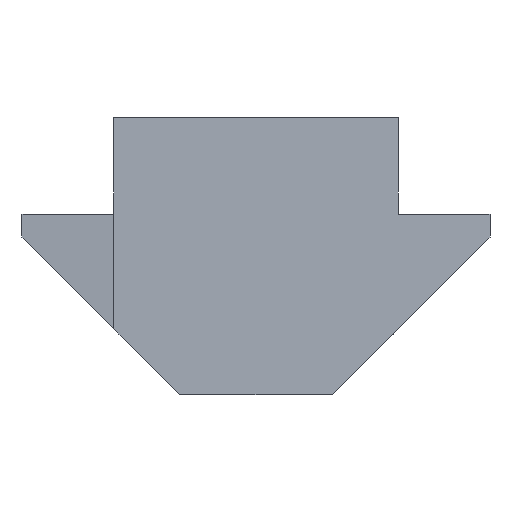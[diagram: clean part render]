
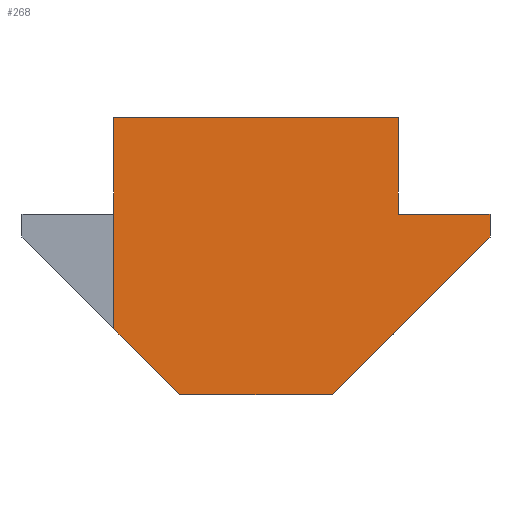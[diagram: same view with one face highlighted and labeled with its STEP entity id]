
A CAD part, front view. The second image highlights one B-rep face of the part: STEP entity #268.
In plain terms, the highlighted planar face has unit normal (0.707, -0.707, 0).
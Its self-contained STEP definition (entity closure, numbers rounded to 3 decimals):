
#2 = ORIENTED_EDGE ( 'NONE', *, *, #107, .T. ) ;
#7 = CARTESIAN_POINT ( 'NONE',  ( -4.25, -9.5, -2.9 ) ) ;
#17 = LINE ( 'NONE', #60, #353 ) ;
#20 = ORIENTED_EDGE ( 'NONE', *, *, #331, .T. ) ;
#27 = EDGE_CURVE ( 'NONE', #170, #37, #310, .T. ) ;
#28 = ORIENTED_EDGE ( 'NONE', *, *, #144, .T. ) ;
#36 = CARTESIAN_POINT ( 'NONE',  ( 7., 1.75, -8.3 ) ) ;
#37 = VERTEX_POINT ( 'NONE', #7 ) ;
#42 = VECTOR ( 'NONE', #301, 1000. ) ;
#48 = CARTESIAN_POINT ( 'NONE',  ( -4.25, -9.5, -8.3 ) ) ;
#55 = DIRECTION ( 'NONE',  ( 0.707, 0.707, 0. ) ) ;
#58 = VERTEX_POINT ( 'NONE', #180 ) ;
#60 = CARTESIAN_POINT ( 'NONE',  ( 4.25, -1., -8.3 ) ) ;
#70 = CARTESIAN_POINT ( 'NONE',  ( -4.25, -9.5, -8.3 ) ) ;
#84 = VECTOR ( 'NONE', #459, 1000. ) ;
#85 = ORIENTED_EDGE ( 'NONE', *, *, #27, .F. ) ;
#107 = EDGE_CURVE ( 'NONE', #170, #378, #324, .T. ) ;
#109 = LINE ( 'NONE', #368, #395 ) ;
#118 = EDGE_CURVE ( 'NONE', #137, #349, #198, .T. ) ;
#126 = EDGE_CURVE ( 'NONE', #418, #378, #374, .T. ) ;
#136 = CARTESIAN_POINT ( 'NONE',  ( 4.25, -1., -2.9 ) ) ;
#137 = VERTEX_POINT ( 'NONE', #447 ) ;
#144 = EDGE_CURVE ( 'NONE', #418, #137, #109, .T. ) ;
#164 = CARTESIAN_POINT ( 'NONE',  ( 7., 1.75, -2.9 ) ) ;
#165 = ORIENTED_EDGE ( 'NONE', *, *, #443, .F. ) ;
#167 = ORIENTED_EDGE ( 'NONE', *, *, #126, .F. ) ;
#170 = VERTEX_POINT ( 'NONE', #537 ) ;
#177 = CARTESIAN_POINT ( 'NONE',  ( 2.282, -2.968, -8.3 ) ) ;
#178 = VERTEX_POINT ( 'NONE', #287 ) ;
#180 = CARTESIAN_POINT ( 'NONE',  ( 4.25, -1., 0. ) ) ;
#189 = DIRECTION ( 'NONE',  ( 0., 0., -1. ) ) ;
#194 = EDGE_CURVE ( 'NONE', #37, #178, #332, .T. ) ;
#198 = LINE ( 'NONE', #201, #84 ) ;
#201 = CARTESIAN_POINT ( 'NONE',  ( 7., 1.75, -8.3 ) ) ;
#211 = AXIS2_PLACEMENT_3D ( 'NONE', #36, #385, #425 ) ;
#212 = CARTESIAN_POINT ( 'NONE',  ( 7., 1.75, 0. ) ) ;
#222 = VECTOR ( 'NONE', #479, 1000. ) ;
#268 = ADVANCED_FACE ( 'NONE', ( #551 ), #509, .F. ) ;
#271 = LINE ( 'NONE', #311, #343 ) ;
#280 = DIRECTION ( 'NONE',  ( 0.577, 0.577, 0.577 ) ) ;
#284 = DIRECTION ( 'NONE',  ( -0.707, -0.707, 0. ) ) ;
#287 = CARTESIAN_POINT ( 'NONE',  ( -4.25, -9.5, 0. ) ) ;
#298 = EDGE_LOOP ( 'NONE', ( #312, #20, #381, #85, #2, #167, #28, #550, #165 ) ) ;
#301 = DIRECTION ( 'NONE',  ( -0.707, -0.707, 0. ) ) ;
#310 = LINE ( 'NONE', #48, #222 ) ;
#311 = CARTESIAN_POINT ( 'NONE',  ( 7., 1.75, -2.9 ) ) ;
#312 = ORIENTED_EDGE ( 'NONE', *, *, #552, .F. ) ;
#321 = CARTESIAN_POINT ( 'NONE',  ( 0.229, -5.021, -10.811 ) ) ;
#324 = LINE ( 'NONE', #321, #350 ) ;
#331 = EDGE_CURVE ( 'NONE', #58, #178, #470, .T. ) ;
#332 = LINE ( 'NONE', #70, #523 ) ;
#336 = CARTESIAN_POINT ( 'NONE',  ( -2.282, -7.532, -8.3 ) ) ;
#343 = VECTOR ( 'NONE', #55, 1000. ) ;
#349 = VERTEX_POINT ( 'NONE', #164 ) ;
#350 = VECTOR ( 'NONE', #534, 1000. ) ;
#353 = VECTOR ( 'NONE', #189, 1000. ) ;
#368 = CARTESIAN_POINT ( 'NONE',  ( 3.271, -1.979, -7.311 ) ) ;
#374 = LINE ( 'NONE', #405, #421 ) ;
#378 = VERTEX_POINT ( 'NONE', #336 ) ;
#381 = ORIENTED_EDGE ( 'NONE', *, *, #194, .F. ) ;
#385 = DIRECTION ( 'NONE',  ( -0.707, 0.707, 0. ) ) ;
#395 = VECTOR ( 'NONE', #280, 1000. ) ;
#405 = CARTESIAN_POINT ( 'NONE',  ( 7., 1.75, -8.3 ) ) ;
#418 = VERTEX_POINT ( 'NONE', #177 ) ;
#421 = VECTOR ( 'NONE', #284, 1000. ) ;
#425 = DIRECTION ( 'NONE',  ( -0.707, -0.707, 0. ) ) ;
#443 = EDGE_CURVE ( 'NONE', #500, #349, #271, .T. ) ;
#447 = CARTESIAN_POINT ( 'NONE',  ( 7., 1.75, -3.582 ) ) ;
#459 = DIRECTION ( 'NONE',  ( 0., 0., 1. ) ) ;
#470 = LINE ( 'NONE', #212, #42 ) ;
#479 = DIRECTION ( 'NONE',  ( 0., 0., 1. ) ) ;
#497 = DIRECTION ( 'NONE',  ( 0., 0., 1. ) ) ;
#500 = VERTEX_POINT ( 'NONE', #136 ) ;
#509 = PLANE ( 'NONE',  #211 ) ;
#523 = VECTOR ( 'NONE', #497, 1000. ) ;
#534 = DIRECTION ( 'NONE',  ( 0.577, 0.577, -0.577 ) ) ;
#537 = CARTESIAN_POINT ( 'NONE',  ( -4.25, -9.5, -6.332 ) ) ;
#550 = ORIENTED_EDGE ( 'NONE', *, *, #118, .T. ) ;
#551 = FACE_OUTER_BOUND ( 'NONE', #298, .T. ) ;
#552 = EDGE_CURVE ( 'NONE', #58, #500, #17, .T. ) ;
